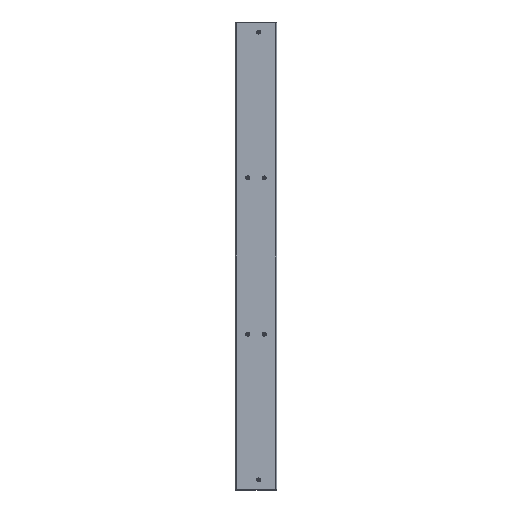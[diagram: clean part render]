
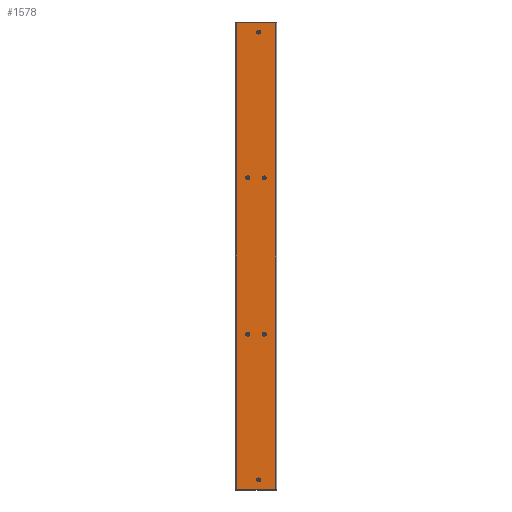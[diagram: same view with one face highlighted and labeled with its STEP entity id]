
A CAD part, left-side view. The second image highlights one B-rep face of the part: STEP entity #1578.
In plain terms, the highlighted planar face has unit normal (-1, 0, 0).
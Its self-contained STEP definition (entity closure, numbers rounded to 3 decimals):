
#1578=ADVANCED_FACE('',(#2120,#2122,#2124,#2126,#2128,#2130,#2132),#2134,.F.);
#2120=FACE_BOUND('',#2121,.T.);
#2121=EDGE_LOOP('',(#6629,#6630,#6631,#6632));
#2122=FACE_BOUND('',#2123,.T.);
#2123=EDGE_LOOP('',(#6633));
#2124=FACE_BOUND('',#2125,.T.);
#2125=EDGE_LOOP('',(#6634));
#2126=FACE_BOUND('',#2127,.T.);
#2127=EDGE_LOOP('',(#6635));
#2128=FACE_BOUND('',#2129,.T.);
#2129=EDGE_LOOP('',(#6636));
#2130=FACE_BOUND('',#2131,.T.);
#2131=EDGE_LOOP('',(#6637));
#2132=FACE_BOUND('',#2133,.T.);
#2133=EDGE_LOOP('',(#6638));
#2134=PLANE('',#2135);
#2135=AXIS2_PLACEMENT_3D('',#2136,#2137,#2138);
#2136=CARTESIAN_POINT('',(0.,0.,0.));
#2137=DIRECTION('',(1.,0.,0.));
#2138=DIRECTION('',(0.,1.,0.));
#6629=ORIENTED_EDGE('',*,*,#7813,.T.);
#6630=ORIENTED_EDGE('',*,*,#7814,.T.);
#6631=ORIENTED_EDGE('',*,*,#7815,.T.);
#6632=ORIENTED_EDGE('',*,*,#7816,.T.);
#6633=ORIENTED_EDGE('',*,*,#7817,.T.);
#6634=ORIENTED_EDGE('',*,*,#7818,.T.);
#6635=ORIENTED_EDGE('',*,*,#7819,.T.);
#6636=ORIENTED_EDGE('',*,*,#7820,.T.);
#6637=ORIENTED_EDGE('',*,*,#7821,.T.);
#6638=ORIENTED_EDGE('',*,*,#7822,.T.);
#7813=EDGE_CURVE('',#8467,#8468,#8469,.T.);
#7814=EDGE_CURVE('',#8468,#8470,#8471,.T.);
#7815=EDGE_CURVE('',#8470,#8472,#8473,.T.);
#7816=EDGE_CURVE('',#8472,#8467,#8474,.T.);
#7817=EDGE_CURVE('',#8475,#8475,#8476,.T.);
#7818=EDGE_CURVE('',#8477,#8477,#8478,.T.);
#7819=EDGE_CURVE('',#8479,#8479,#8480,.T.);
#7820=EDGE_CURVE('',#8481,#8481,#8482,.T.);
#7821=EDGE_CURVE('',#8483,#8483,#8484,.T.);
#7822=EDGE_CURVE('',#8485,#8485,#8486,.T.);
#8467=VERTEX_POINT('',#9635);
#8468=VERTEX_POINT('',#9636);
#8469=LINE('',#9637,#9638);
#8470=VERTEX_POINT('',#9640);
#8471=LINE('',#9641,#9642);
#8472=VERTEX_POINT('',#9644);
#8473=LINE('',#9645,#9646);
#8474=LINE('',#9648,#9649);
#8475=VERTEX_POINT('',#9651);
#8476=CIRCLE('',#9652,9.25);
#8477=VERTEX_POINT('',#9656);
#8478=CIRCLE('',#9657,9.25);
#8479=VERTEX_POINT('',#9661);
#8480=CIRCLE('',#9662,9.25);
#8481=VERTEX_POINT('',#9666);
#8482=CIRCLE('',#9667,8.727);
#8483=VERTEX_POINT('',#9671);
#8484=CIRCLE('',#9672,9.25);
#8485=VERTEX_POINT('',#9676);
#8486=CIRCLE('',#9677,9.25);
#9635=CARTESIAN_POINT('',(0.,92.7,1082.7));
#9636=CARTESIAN_POINT('',(0.,92.7,-1082.7));
#9637=CARTESIAN_POINT('',(0.,92.7,1082.7));
#9638=VECTOR('',#9639,1.);
#9639=DIRECTION('',(0.,0.,-1.));
#9640=CARTESIAN_POINT('',(0.,-92.7,-1082.7));
#9641=CARTESIAN_POINT('',(0.,92.7,-1082.7));
#9642=VECTOR('',#9643,1.);
#9643=DIRECTION('',(0.,-1.,0.));
#9644=CARTESIAN_POINT('',(0.,-92.7,1082.7));
#9645=CARTESIAN_POINT('',(0.,-92.7,-1082.7));
#9646=VECTOR('',#9647,1.);
#9647=DIRECTION('',(0.,0.,1.));
#9648=CARTESIAN_POINT('',(0.,-92.7,1082.7));
#9649=VECTOR('',#9650,1.);
#9650=DIRECTION('',(0.,1.,0.));
#9651=CARTESIAN_POINT('',(0.,29.25,-362.5));
#9652=AXIS2_PLACEMENT_3D('',#9653,#9654,#9655);
#9653=CARTESIAN_POINT('',(0.,38.5,-362.5));
#9654=DIRECTION('',(1.,0.,0.));
#9655=DIRECTION('',(0.,-1.,0.));
#9656=CARTESIAN_POINT('',(0.,-47.75,-362.5));
#9657=AXIS2_PLACEMENT_3D('',#9658,#9659,#9660);
#9658=CARTESIAN_POINT('',(0.,-38.5,-362.5));
#9659=DIRECTION('',(1.,0.,0.));
#9660=DIRECTION('',(0.,-1.,0.));
#9661=CARTESIAN_POINT('',(0.,29.25,362.5));
#9662=AXIS2_PLACEMENT_3D('',#9663,#9664,#9665);
#9663=CARTESIAN_POINT('',(0.,38.5,362.5));
#9664=DIRECTION('',(1.,0.,0.));
#9665=DIRECTION('',(0.,-1.,0.));
#9666=CARTESIAN_POINT('',(0.,-47.227,362.5));
#9667=AXIS2_PLACEMENT_3D('',#9668,#9669,#9670);
#9668=CARTESIAN_POINT('',(0.,-38.5,362.5));
#9669=DIRECTION('',(1.,0.,0.));
#9670=DIRECTION('',(0.,-1.,0.));
#9671=CARTESIAN_POINT('',(0.,-3.25,1039.));
#9672=AXIS2_PLACEMENT_3D('',#9673,#9674,#9675);
#9673=CARTESIAN_POINT('',(0.,-12.5,1039.));
#9674=DIRECTION('',(1.,0.,0.));
#9675=DIRECTION('',(0.,1.,0.));
#9676=CARTESIAN_POINT('',(0.,-3.25,-1039.));
#9677=AXIS2_PLACEMENT_3D('',#9678,#9679,#9680);
#9678=CARTESIAN_POINT('',(0.,-12.5,-1039.));
#9679=DIRECTION('',(1.,0.,0.));
#9680=DIRECTION('',(0.,1.,0.));
